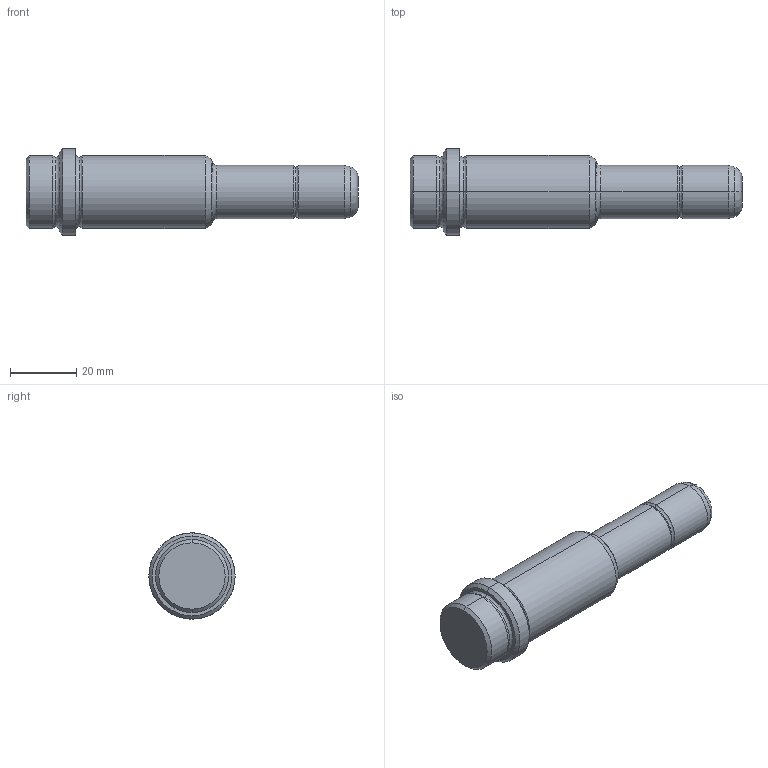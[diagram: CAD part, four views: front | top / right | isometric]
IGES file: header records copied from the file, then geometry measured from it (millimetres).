
Start section: START RECORD GO HERE.
Global section: file name: 357-16X56X100.igs; native system: DASSAULT SYSTEMES CATIA V5 R20 - www.3ds.com; preprocessor: CATIA Version 5 Release 20 ; author: Utente; organization: NB04-ASUS; date: 20210814.110925; units: millimetre
Bounding box: 100 x 26 x 26 mm (x, y, z)
Surface area: 6985.4 mm2 (no closed solid volume)
Topology: 0 solids, 0 shells, 39 faces, 224 edges, 224 vertices
Faces by surface type: revolution 34, plane 5
